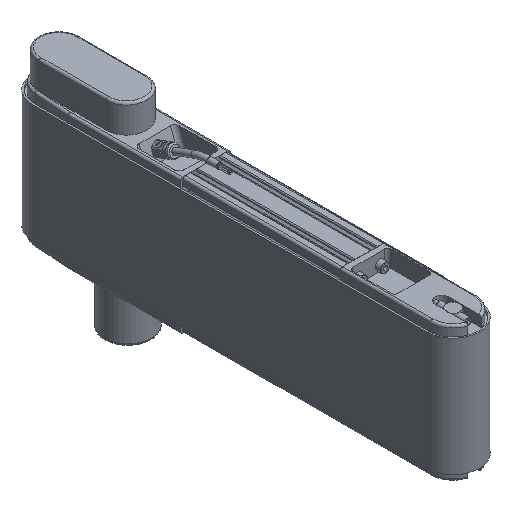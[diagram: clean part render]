
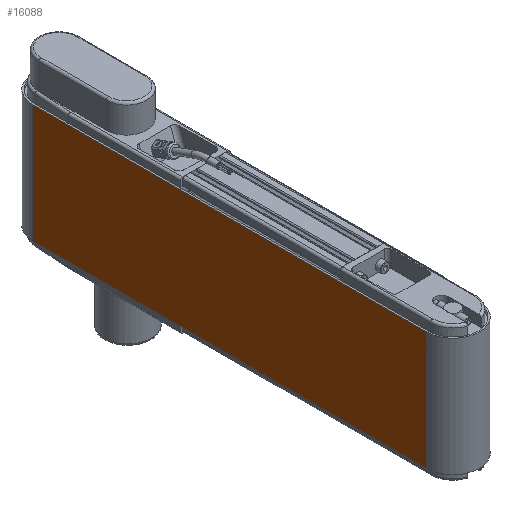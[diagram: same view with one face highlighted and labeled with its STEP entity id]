
A CAD part, isometric view. The second image highlights one B-rep face of the part: STEP entity #16088.
In plain terms, the highlighted planar face has unit normal (-1, 0, 0).
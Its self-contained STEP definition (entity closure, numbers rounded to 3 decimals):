
#506=PLANE('',#17149);
#1167=FACE_OUTER_BOUND('',#2058,.T.);
#2058=EDGE_LOOP('',(#10876,#10877,#10878,#10879));
#3062=LINE('',#23926,#4314);
#3063=LINE('',#23931,#4315);
#3065=LINE('',#23935,#4317);
#3066=LINE('',#23936,#4318);
#4314=VECTOR('',#19255,10.);
#4315=VECTOR('',#19260,10.);
#4317=VECTOR('',#19264,10.);
#4318=VECTOR('',#19265,10.);
#6455=VERTEX_POINT('',#23920);
#6457=VERTEX_POINT('',#23924);
#6459=VERTEX_POINT('',#23929);
#6460=VERTEX_POINT('',#23934);
#8168=EDGE_CURVE('',#6455,#6457,#3062,.T.);
#8170=EDGE_CURVE('',#6459,#6457,#3063,.T.);
#8172=EDGE_CURVE('',#6459,#6460,#3065,.T.);
#8173=EDGE_CURVE('',#6460,#6455,#3066,.T.);
#10876=ORIENTED_EDGE('',*,*,#8172,.T.);
#10877=ORIENTED_EDGE('',*,*,#8173,.T.);
#10878=ORIENTED_EDGE('',*,*,#8168,.T.);
#10879=ORIENTED_EDGE('',*,*,#8170,.F.);
#16088=ADVANCED_FACE('',(#1167),#506,.T.);
#17149=AXIS2_PLACEMENT_3D('',#23933,#19262,#19263);
#19255=DIRECTION('',(0.,1.,0.));
#19260=DIRECTION('',(0.,0.,1.));
#19262=DIRECTION('center_axis',(-1.,0.,0.));
#19263=DIRECTION('ref_axis',(0.,0.,
1.));
#19264=DIRECTION('',(0.,-1.,0.));
#19265=DIRECTION('',(0.,0.,1.));
#23920=CARTESIAN_POINT('',(-23.3,-220.,52.5));
#23924=CARTESIAN_POINT('',(-23.3,130.,52.5));
#23926=CARTESIAN_POINT('',(-23.3,130.,52.5));
#23929=CARTESIAN_POINT('',(-23.3,130.,-52.5));
#23931=CARTESIAN_POINT('',(-23.3,130.,0.));
#23933=CARTESIAN_POINT('Origin',(-23.3,130.,0.));
#23934=CARTESIAN_POINT('',(-23.3,-220.,-52.5));
#23935=CARTESIAN_POINT('',(-23.3,130.,-52.5));
#23936=CARTESIAN_POINT('',(-23.3,-220.,0.));
